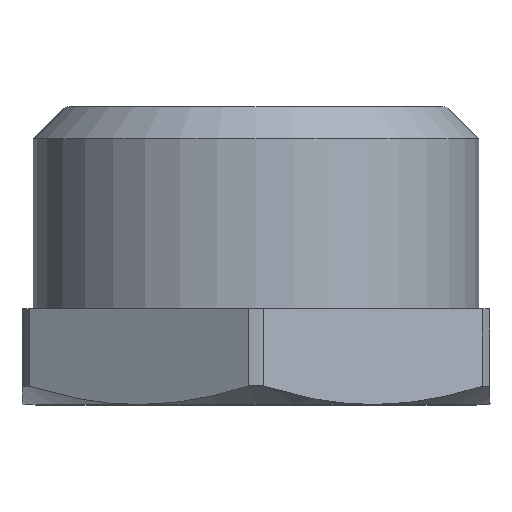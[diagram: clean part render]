
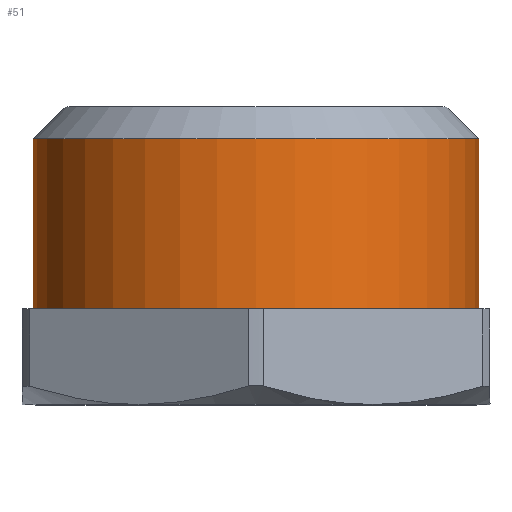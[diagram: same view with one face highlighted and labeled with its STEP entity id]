
A CAD part, top view. The second image highlights one B-rep face of the part: STEP entity #51.
In plain terms, the highlighted cylindrical face has radius 10.477 mm (diameter 20.955 mm), a full revolution.
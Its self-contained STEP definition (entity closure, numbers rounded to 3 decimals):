
#51=ADVANCED_FACE('',(#124,#126),#128,.T.);
#124=FACE_OUTER_BOUND('',#125,.T.);
#125=EDGE_LOOP('',(#272));
#126=FACE_OUTER_BOUND('',#127,.T.);
#127=EDGE_LOOP('',(#273));
#128=CYLINDRICAL_SURFACE('',#129,10.478);
#129=AXIS2_PLACEMENT_3D('',#130,#131,#132);
#130=CARTESIAN_POINT('',(0.,0.,0.));
#131=DIRECTION('',(0.,1.,0.));
#132=DIRECTION('',(-1.,0.,0.));
#272=ORIENTED_EDGE('',*,*,#350,.F.);
#273=ORIENTED_EDGE('',*,*,#366,.T.);
#350=EDGE_CURVE('',#407,#407,#408,.T.);
#366=EDGE_CURVE('',#436,#436,#437,.T.);
#407=VERTEX_POINT('',#514);
#408=CIRCLE('',#515,10.478);
#436=VERTEX_POINT('',#834);
#437=CIRCLE('',#835,10.478);
#514=CARTESIAN_POINT('',(-10.478,12.5,0.));
#515=AXIS2_PLACEMENT_3D('',#516,#517,#518);
#516=CARTESIAN_POINT('',(0.,12.5,0.));
#517=DIRECTION('',(0.,1.,0.));
#518=DIRECTION('',(-1.,0.,0.));
#834=CARTESIAN_POINT('',(-10.478,4.5,0.));
#835=AXIS2_PLACEMENT_3D('',#836,#837,#838);
#836=CARTESIAN_POINT('',(0.,4.5,0.));
#837=DIRECTION('',(0.,1.,0.));
#838=DIRECTION('',(-1.,0.,0.));
